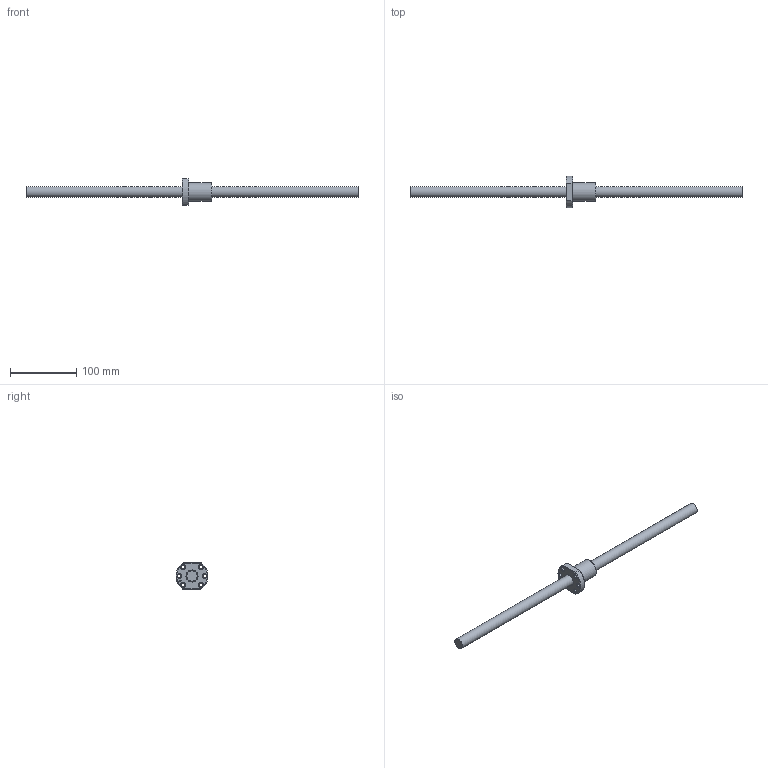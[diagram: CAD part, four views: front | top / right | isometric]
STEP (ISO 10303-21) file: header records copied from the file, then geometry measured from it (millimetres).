
FILE_DESCRIPTION (( 'STEP AP203' ), '1' );
FILE_NAME ('SFNU01605D-4.step', '2024-05-14T06:34:08', ( '' ), ( '' ), 'SwSTEP 2.0', 'SolidWorks 2022', '' );
FILE_SCHEMA (( 'CONFIG_CONTROL_DESIGN' ));
Length unit declared in the file: millimetre
Products named in the file (1): SFNU01605D-4
Bounding box: 500 x 48 x 40 mm (x, y, z)
Volume: 125273.8 mm3; surface area: 36209.4 mm2
Topology: 2 solids, 2 shells, 54 faces, 139 edges, 90 vertices
Faces by surface type: cylinder 19, cone 13, plane 12, bspline 5, torus 5
Full cylindrical faces by diameter (mm): 4 x1, 5 x6, 5.5 x6, 16 x1, 18.1 x1, 28 x1
Entity records: 3159 total; most frequent: CARTESIAN_POINT 2123, DIRECTION 186, ORIENTED_EDGE 166, EDGE_LOOP 90, AXIS2_PLACEMENT_3D 85, EDGE_CURVE 83, VERTEX_POINT 67, FACE_OUTER_BOUND 60
